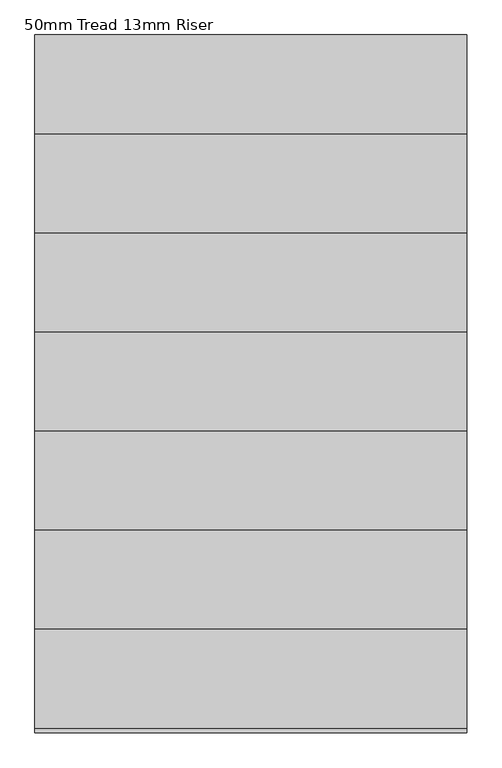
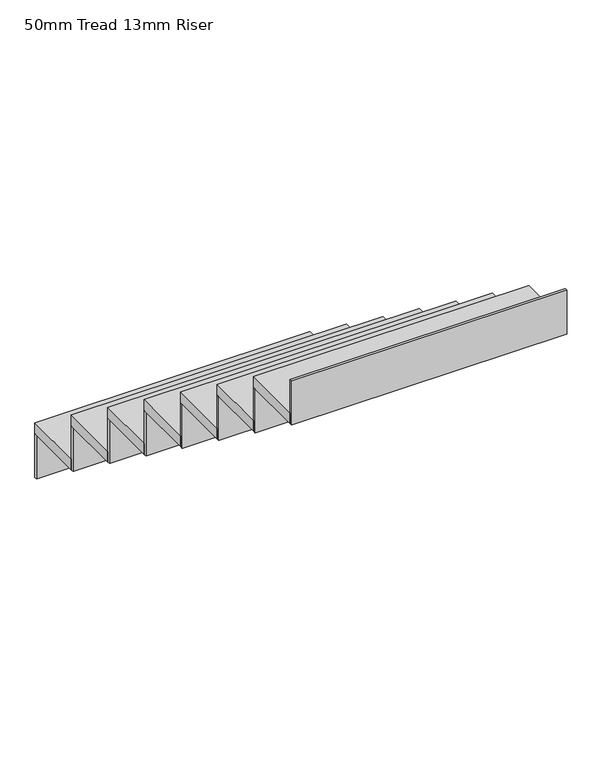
"""IFC4 building model written with IfcOpenShell, lengths in millimetres: stair flight geometry, 50mm Tread 13mm Riser."""

from ifc_helpers import new_model, si_unit, frame, origin, place, context, project, spatial, polyline, outline, extrude, source, transform, mapped, element, save


def stair_flight_50mm_tread_13mm_riser_006057ae(model_context):
    return source(origin(), model_context, "Body", "SweptSolid", [
        extrude(outline(polyline([(1157.2607589, 12161.5722364), (-62.7392411, 12161.5722364), (-62.7392411, 12441.5722364), (1157.2607589, 12441.5722364), (1157.2607589, 12161.5722364)])), frame((0.0, 0.0, 6302.9411765), z_axis=(0.0, 0.0, 1.0), x_axis=(1.0, 0.0, 0.0)), (0.0, 0.0, 1.0), 50.0),
        extrude(outline(polyline([(-62.7392411, 12429.0722364), (-62.7392411, 12441.5722364), (1157.2607589, 12441.5722364), (1157.2607589, 12429.0722364), (-62.7392411, 12429.0722364)])), frame((0.0, 0.0, 6097.0588235), z_axis=(0.0, 0.0, 1.0), x_axis=(1.0, 0.0, 0.0)), (0.0, 0.0, 1.0), 205.8823529),
        extrude(outline(polyline([(1157.2607589, 11881.5722364), (-62.7392411, 11881.5722364), (-62.7392411, 12161.5722364), (1157.2607589, 12161.5722364), (1157.2607589, 11881.5722364)])), frame((0.0, 0.0, 6508.8235294), z_axis=(0.0, 0.0, 1.0), x_axis=(1.0, 0.0, 0.0)), (0.0, 0.0, 1.0), 50.0),
        extrude(outline(polyline([(-62.7392411, 12149.0722364), (-62.7392411, 12161.5722364), (1157.2607589, 12161.5722364), (1157.2607589, 12149.0722364), (-62.7392411, 12149.0722364)])), frame((0.0, 0.0, 6302.9411765), z_axis=(0.0, 0.0, 1.0), x_axis=(1.0, 0.0, 0.0)), (0.0, 0.0, 1.0), 205.8823529),
        extrude(outline(polyline([(1157.2607589, 11601.5722364), (-62.7392411, 11601.5722364), (-62.7392411, 11881.5722364), (1157.2607589, 11881.5722364), (1157.2607589, 11601.5722364)])), frame((0.0, 0.0, 6714.7058824), z_axis=(0.0, 0.0, 1.0), x_axis=(1.0, 0.0, 0.0)), (0.0, 0.0, 1.0), 50.0),
        extrude(outline(polyline([(-62.7392411, 11869.0722364), (-62.7392411, 11881.5722364), (1157.2607589, 11881.5722364), (1157.2607589, 11869.0722364), (-62.7392411, 11869.0722364)])), frame((0.0, 0.0, 6508.8235294), z_axis=(0.0, 0.0, 1.0), x_axis=(1.0, 0.0, 0.0)), (0.0, 0.0, 1.0), 205.8823529),
        extrude(outline(polyline([(1157.2607589, 11321.5722364), (-62.7392411, 11321.5722364), (-62.7392411, 11601.5722364), (1157.2607589, 11601.5722364), (1157.2607589, 11321.5722364)])), frame((0.0, 0.0, 6920.5882353), z_axis=(0.0, 0.0, 1.0), x_axis=(1.0, 0.0, 0.0)), (0.0, 0.0, 1.0), 50.0),
        extrude(outline(polyline([(-62.7392411, 11589.0722364), (-62.7392411, 11601.5722364), (1157.2607589, 11601.5722364), (1157.2607589, 11589.0722364), (-62.7392411, 11589.0722364)])), frame((0.0, 0.0, 6714.7058824), z_axis=(0.0, 0.0, 1.0), x_axis=(1.0, 0.0, 0.0)), (0.0, 0.0, 1.0), 205.8823529),
        extrude(outline(polyline([(1157.2607589, 11041.5722364), (-62.7392411, 11041.5722364), (-62.7392411, 11321.5722364), (1157.2607589, 11321.5722364), (1157.2607589, 11041.5722364)])), frame((0.0, 0.0, 7126.4705882), z_axis=(0.0, 0.0, 1.0), x_axis=(1.0, 0.0, 0.0)), (0.0, 0.0, 1.0), 50.0),
        extrude(outline(polyline([(-62.7392411, 11309.0722364), (-62.7392411, 11321.5722364), (1157.2607589, 11321.5722364), (1157.2607589, 11309.0722364), (-62.7392411, 11309.0722364)])), frame((0.0, 0.0, 6920.5882353), z_axis=(0.0, 0.0, 1.0), x_axis=(1.0, 0.0, 0.0)), (0.0, 0.0, 1.0), 205.8823529),
        extrude(outline(polyline([(1157.2607589, 10761.5722364), (-62.7392411, 10761.5722364), (-62.7392411, 11041.5722364), (1157.2607589, 11041.5722364), (1157.2607589, 10761.5722364)])), frame((0.0, 0.0, 7332.3529412), z_axis=(0.0, 0.0, 1.0), x_axis=(1.0, 0.0, 0.0)), (0.0, 0.0, 1.0), 50.0),
        extrude(outline(polyline([(-62.7392411, 11029.0722364), (-62.7392411, 11041.5722364), (1157.2607589, 11041.5722364), (1157.2607589, 11029.0722364), (-62.7392411, 11029.0722364)])), frame((0.0, 0.0, 7126.4705882), z_axis=(0.0, 0.0, 1.0), x_axis=(1.0, 0.0, 0.0)), (0.0, 0.0, 1.0), 205.8823529),
        extrude(outline(polyline([(1157.2607589, 10481.5722364), (-62.7392411, 10481.5722364), (-62.7392411, 10761.5722364), (1157.2607589, 10761.5722364), (1157.2607589, 10481.5722364)])), frame((0.0, 0.0, 7538.2352941), z_axis=(0.0, 0.0, 1.0), x_axis=(1.0, 0.0, 0.0)), (0.0, 0.0, 1.0), 50.0),
        extrude(outline(polyline([(-62.7392411, 10749.0722364), (-62.7392411, 10761.5722364), (1157.2607589, 10761.5722364), (1157.2607589, 10749.0722364), (-62.7392411, 10749.0722364)])), frame((0.0, 0.0, 7332.3529412), z_axis=(0.0, 0.0, 1.0), x_axis=(1.0, 0.0, 0.0)), (0.0, 0.0, 1.0), 205.8823529),
        extrude(outline(polyline([(-62.7392411, 10469.0722364), (-62.7392411, 10481.5722364), (1157.2607589, 10481.5722364), (1157.2607589, 10469.0722364), (-62.7392411, 10469.0722364)])), frame((0.0, 0.0, 7538.2352941), z_axis=(0.0, 0.0, 1.0), x_axis=(1.0, 0.0, 0.0)), (0.0, 0.0, 1.0), 205.8823529),
    ])


if __name__ == "__main__":
    model = new_model("IFC4")
    model_context = context("Model", 3, world=origin())
    ifc_project = project(units=[si_unit("LENGTHUNIT", "METRE", prefix="MILLI")], contexts=[model_context])
    site = spatial("IfcSite", under=ifc_project)
    building = spatial("IfcBuilding", under=site)
    placement = place(None, origin())
    stair_flight_50mm_tread_13mm_riser_shape = stair_flight_50mm_tread_13mm_riser_006057ae(model_context)
    element("IfcStairFlight", 1, ObjectType="50mm Tread 13mm Riser", at=placement, inside=building, context=model_context, shape_type="MappedRepresentation", body=[
        mapped(stair_flight_50mm_tread_13mm_riser_shape, transform((0.0, 0.0, 0.0), x_axis=(1.0, 0.0, 0.0), y_axis=(0.0, 1.0, 0.0), z_axis=(0.0, 0.0, 1.0))),
    ])
    save(model, "model.ifc")
